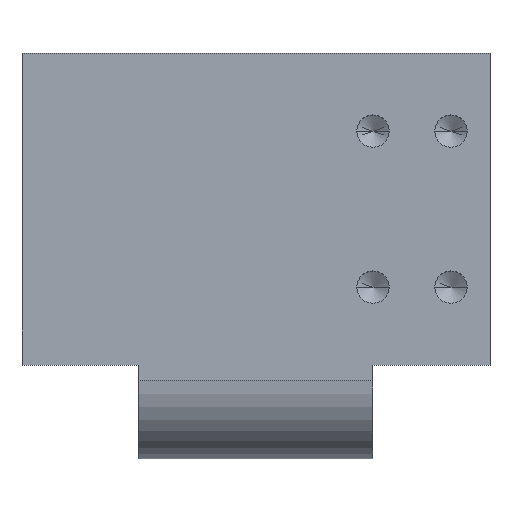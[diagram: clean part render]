
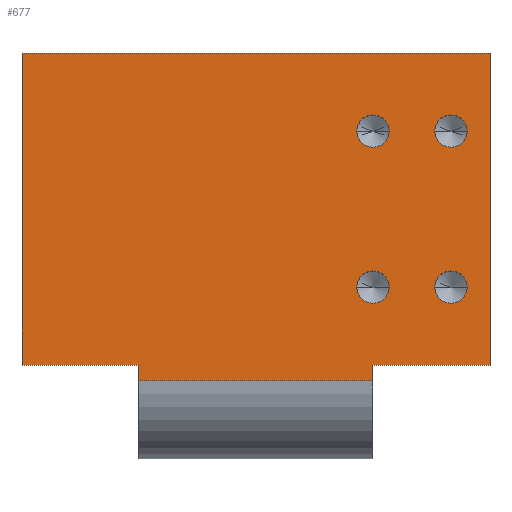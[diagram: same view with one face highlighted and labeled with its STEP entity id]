
A CAD part, top view. The second image highlights one B-rep face of the part: STEP entity #677.
In plain terms, the highlighted planar face has unit normal (0, 0, 1).
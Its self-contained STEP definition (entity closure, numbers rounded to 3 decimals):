
#74 = VECTOR ( 'NONE', #1977, 1000. ) ;
#109 = CARTESIAN_POINT ( 'NONE',  ( 55., -10., 0. ) ) ;
#110 = EDGE_CURVE ( 'NONE', #1802, #352, #568, .T. ) ;
#125 = CARTESIAN_POINT ( 'NONE',  ( 45., 10., 0. ) ) ;
#130 = DIRECTION ( 'NONE',  ( 0., 1., 0. ) ) ;
#160 = AXIS2_PLACEMENT_3D ( 'NONE', #125, #1742, #2256 ) ;
#171 = CIRCLE ( 'NONE', #1208, 2.067 ) ;
#174 = CARTESIAN_POINT ( 'NONE',  ( 45., -22., 0. ) ) ;
#177 = ORIENTED_EDGE ( 'NONE', *, *, #527, .F. ) ;
#194 = ORIENTED_EDGE ( 'NONE', *, *, #1540, .T. ) ;
#208 = VERTEX_POINT ( 'NONE', #433 ) ;
#228 = VERTEX_POINT ( 'NONE', #1302 ) ;
#232 = CIRCLE ( 'NONE', #389, 2.067 ) ;
#233 = DIRECTION ( 'NONE',  ( 0., 0., 1. ) ) ;
#246 = CARTESIAN_POINT ( 'NONE',  ( 52.933, -10., 0. ) ) ;
#259 = ORIENTED_EDGE ( 'NONE', *, *, #773, .F. ) ;
#274 = EDGE_CURVE ( 'NONE', #228, #560, #2214, .T. ) ;
#280 = LINE ( 'NONE', #1563, #1114 ) ;
#291 = VERTEX_POINT ( 'NONE', #982 ) ;
#305 = CARTESIAN_POINT ( 'NONE',  ( 0., 20., 0. ) ) ;
#352 = VERTEX_POINT ( 'NONE', #1653 ) ;
#359 = EDGE_CURVE ( 'NONE', #1164, #1618, #1536, .T. ) ;
#389 = AXIS2_PLACEMENT_3D ( 'NONE', #1899, #867, #726 ) ;
#394 = EDGE_CURVE ( 'NONE', #462, #1909, #418, .T. ) ;
#416 = EDGE_CURVE ( 'NONE', #462, #560, #981, .T. ) ;
#418 = LINE ( 'NONE', #2006, #2032 ) ;
#433 = CARTESIAN_POINT ( 'NONE',  ( 42.933, 10., 0. ) ) ;
#435 = EDGE_CURVE ( 'NONE', #352, #1164, #2118, .T. ) ;
#450 = VERTEX_POINT ( 'NONE', #246 ) ;
#453 = DIRECTION ( 'NONE',  ( 1., 0., 0. ) ) ;
#456 = FACE_OUTER_BOUND ( 'NONE', #1775, .T. ) ;
#462 = VERTEX_POINT ( 'NONE', #1308 ) ;
#467 = CARTESIAN_POINT ( 'NONE',  ( 0., -20., 0. ) ) ;
#493 = PLANE ( 'NONE',  #962 ) ;
#495 = VECTOR ( 'NONE', #2180, 1000. ) ;
#500 = VERTEX_POINT ( 'NONE', #1305 ) ;
#527 = EDGE_CURVE ( 'NONE', #291, #1893, #1024, .T. ) ;
#539 = DIRECTION ( 'NONE',  ( 0., 0., 1. ) ) ;
#541 = FACE_BOUND ( 'NONE', #1289, .T. ) ;
#543 = DIRECTION ( 'NONE',  ( 1., 0., 0. ) ) ;
#552 = CARTESIAN_POINT ( 'NONE',  ( 55., 10., 0. ) ) ;
#560 = VERTEX_POINT ( 'NONE', #174 ) ;
#563 = DIRECTION ( 'NONE',  ( 1., 0., 0. ) ) ;
#568 = LINE ( 'NONE', #305, #1858 ) ;
#586 = CARTESIAN_POINT ( 'NONE',  ( 45., -10., 0. ) ) ;
#591 = ORIENTED_EDGE ( 'NONE', *, *, #394, .F. ) ;
#598 = DIRECTION ( 'NONE',  ( -1., 0., 0. ) ) ;
#625 = AXIS2_PLACEMENT_3D ( 'NONE', #109, #1879, #650 ) ;
#637 = ORIENTED_EDGE ( 'NONE', *, *, #2255, .F. ) ;
#650 = DIRECTION ( 'NONE',  ( 1., 0., 0. ) ) ;
#677 = ADVANCED_FACE ( 'NONE', ( #541, #772, #913, #1396, #456 ), #493, .F. ) ;
#691 = DIRECTION ( 'NONE',  ( 1., 0., 0. ) ) ;
#697 = ORIENTED_EDGE ( 'NONE', *, *, #2057, .F. ) ;
#717 = CARTESIAN_POINT ( 'NONE',  ( 45., -10., 0. ) ) ;
#724 = DIRECTION ( 'NONE',  ( 0., 0., 1. ) ) ;
#726 = DIRECTION ( 'NONE',  ( 1., 0., 0. ) ) ;
#727 = CARTESIAN_POINT ( 'NONE',  ( 45., 10., 0. ) ) ;
#736 = ORIENTED_EDGE ( 'NONE', *, *, #1052, .F. ) ;
#737 = DIRECTION ( 'NONE',  ( 0., 0., 1. ) ) ;
#769 = AXIS2_PLACEMENT_3D ( 'NONE', #727, #1771, #543 ) ;
#772 = FACE_BOUND ( 'NONE', #2286, .T. ) ;
#773 = EDGE_CURVE ( 'NONE', #1893, #291, #1821, .T. ) ;
#807 = DIRECTION ( 'NONE',  ( 0., -1., 0. ) ) ;
#829 = AXIS2_PLACEMENT_3D ( 'NONE', #552, #737, #453 ) ;
#837 = ORIENTED_EDGE ( 'NONE', *, *, #2174, .F. ) ;
#851 = CARTESIAN_POINT ( 'NONE',  ( 60., -20., 0. ) ) ;
#867 = DIRECTION ( 'NONE',  ( 0., 0., 1. ) ) ;
#882 = CIRCLE ( 'NONE', #2283, 2.067 ) ;
#889 = ORIENTED_EDGE ( 'NONE', *, *, #359, .F. ) ;
#913 = FACE_BOUND ( 'NONE', #2007, .T. ) ;
#929 = VERTEX_POINT ( 'NONE', #1651 ) ;
#959 = DIRECTION ( 'NONE',  ( 1., 0., 0. ) ) ;
#962 = AXIS2_PLACEMENT_3D ( 'NONE', #1946, #1213, #2244 ) ;
#981 = LINE ( 'NONE', #1969, #74 ) ;
#982 = CARTESIAN_POINT ( 'NONE',  ( 57.067, 10., 0. ) ) ;
#1024 = CIRCLE ( 'NONE', #2225, 2.067 ) ;
#1052 = EDGE_CURVE ( 'NONE', #929, #208, #2238, .T. ) ;
#1090 = ORIENTED_EDGE ( 'NONE', *, *, #416, .T. ) ;
#1114 = VECTOR ( 'NONE', #598, 1000. ) ;
#1164 = VERTEX_POINT ( 'NONE', #1562 ) ;
#1173 = EDGE_LOOP ( 'NONE', ( #637, #837 ) ) ;
#1208 = AXIS2_PLACEMENT_3D ( 'NONE', #717, #724, #563 ) ;
#1213 = DIRECTION ( 'NONE',  ( 0., 0., -1. ) ) ;
#1244 = CIRCLE ( 'NONE', #625, 2.067 ) ;
#1249 = EDGE_CURVE ( 'NONE', #208, #929, #1297, .T. ) ;
#1261 = VECTOR ( 'NONE', #1455, 1000. ) ;
#1289 = EDGE_LOOP ( 'NONE', ( #177, #259 ) ) ;
#1297 = CIRCLE ( 'NONE', #769, 2.067 ) ;
#1302 = CARTESIAN_POINT ( 'NONE',  ( 45., -20., 0. ) ) ;
#1305 = CARTESIAN_POINT ( 'NONE',  ( 57.067, -10., 0. ) ) ;
#1308 = CARTESIAN_POINT ( 'NONE',  ( 15., -22., 0. ) ) ;
#1351 = CARTESIAN_POINT ( 'NONE',  ( 42.933, -10., 0. ) ) ;
#1396 = FACE_BOUND ( 'NONE', #1173, .T. ) ;
#1407 = ORIENTED_EDGE ( 'NONE', *, *, #1249, .F. ) ;
#1409 = CARTESIAN_POINT ( 'NONE',  ( 47.067, -10., 0. ) ) ;
#1437 = ORIENTED_EDGE ( 'NONE', *, *, #1751, .F. ) ;
#1455 = DIRECTION ( 'NONE',  ( 0., -1., 0. ) ) ;
#1465 = ORIENTED_EDGE ( 'NONE', *, *, #274, .F. ) ;
#1495 = VECTOR ( 'NONE', #691, 1000. ) ;
#1502 = VECTOR ( 'NONE', #807, 1000. ) ;
#1536 = LINE ( 'NONE', #1831, #1261 ) ;
#1540 = EDGE_CURVE ( 'NONE', #1802, #1909, #1555, .T. ) ;
#1555 = LINE ( 'NONE', #1739, #1495 ) ;
#1562 = CARTESIAN_POINT ( 'NONE',  ( 60., 20., 0. ) ) ;
#1563 = CARTESIAN_POINT ( 'NONE',  ( 60., -20., 0. ) ) ;
#1567 = ORIENTED_EDGE ( 'NONE', *, *, #435, .F. ) ;
#1592 = DIRECTION ( 'NONE',  ( 1., 0., 0. ) ) ;
#1602 = VERTEX_POINT ( 'NONE', #1409 ) ;
#1618 = VERTEX_POINT ( 'NONE', #851 ) ;
#1641 = CARTESIAN_POINT ( 'NONE',  ( 45., 20., 0. ) ) ;
#1651 = CARTESIAN_POINT ( 'NONE',  ( 47.067, 10., 0. ) ) ;
#1653 = CARTESIAN_POINT ( 'NONE',  ( 0., 20., 0. ) ) ;
#1685 = CARTESIAN_POINT ( 'NONE',  ( 15., -20., 0. ) ) ;
#1739 = CARTESIAN_POINT ( 'NONE',  ( 0., -20., 0. ) ) ;
#1742 = DIRECTION ( 'NONE',  ( 0., 0., 1. ) ) ;
#1751 = EDGE_CURVE ( 'NONE', #500, #450, #1244, .T. ) ;
#1769 = CARTESIAN_POINT ( 'NONE',  ( 55., 10., 0. ) ) ;
#1771 = DIRECTION ( 'NONE',  ( 0., 0., 1. ) ) ;
#1775 = EDGE_LOOP ( 'NONE', ( #591, #1090, #1465, #697, #889, #1567, #2229, #194 ) ) ;
#1787 = EDGE_CURVE ( 'NONE', #450, #500, #232, .T. ) ;
#1802 = VERTEX_POINT ( 'NONE', #467 ) ;
#1821 = CIRCLE ( 'NONE', #829, 2.067 ) ;
#1831 = CARTESIAN_POINT ( 'NONE',  ( 60., -20., 0. ) ) ;
#1858 = VECTOR ( 'NONE', #2054, 1000. ) ;
#1879 = DIRECTION ( 'NONE',  ( 0., 0., 1. ) ) ;
#1893 = VERTEX_POINT ( 'NONE', #1952 ) ;
#1899 = CARTESIAN_POINT ( 'NONE',  ( 55., -10., 0. ) ) ;
#1909 = VERTEX_POINT ( 'NONE', #1685 ) ;
#1927 = VERTEX_POINT ( 'NONE', #1351 ) ;
#1946 = CARTESIAN_POINT ( 'NONE',  ( 0., 0., 0. ) ) ;
#1952 = CARTESIAN_POINT ( 'NONE',  ( 52.933, 10., 0. ) ) ;
#1969 = CARTESIAN_POINT ( 'NONE',  ( 45., -22., 0. ) ) ;
#1977 = DIRECTION ( 'NONE',  ( 1., 0., 0. ) ) ;
#2002 = CARTESIAN_POINT ( 'NONE',  ( 15., 20., 0. ) ) ;
#2006 = CARTESIAN_POINT ( 'NONE',  ( 15., -32., 0. ) ) ;
#2007 = EDGE_LOOP ( 'NONE', ( #736, #1407 ) ) ;
#2032 = VECTOR ( 'NONE', #130, 1000. ) ;
#2054 = DIRECTION ( 'NONE',  ( 0., 1., 0. ) ) ;
#2057 = EDGE_CURVE ( 'NONE', #1618, #228, #280, .T. ) ;
#2103 = ORIENTED_EDGE ( 'NONE', *, *, #1787, .F. ) ;
#2118 = LINE ( 'NONE', #2002, #495 ) ;
#2174 = EDGE_CURVE ( 'NONE', #1927, #1602, #882, .T. ) ;
#2180 = DIRECTION ( 'NONE',  ( 1., 0., 0. ) ) ;
#2214 = LINE ( 'NONE', #1641, #1502 ) ;
#2225 = AXIS2_PLACEMENT_3D ( 'NONE', #1769, #539, #1592 ) ;
#2229 = ORIENTED_EDGE ( 'NONE', *, *, #110, .F. ) ;
#2238 = CIRCLE ( 'NONE', #160, 2.067 ) ;
#2244 = DIRECTION ( 'NONE',  ( -1., 0., 0. ) ) ;
#2255 = EDGE_CURVE ( 'NONE', #1602, #1927, #171, .T. ) ;
#2256 = DIRECTION ( 'NONE',  ( 1., 0., 0. ) ) ;
#2283 = AXIS2_PLACEMENT_3D ( 'NONE', #586, #233, #959 ) ;
#2286 = EDGE_LOOP ( 'NONE', ( #1437, #2103 ) ) ;
